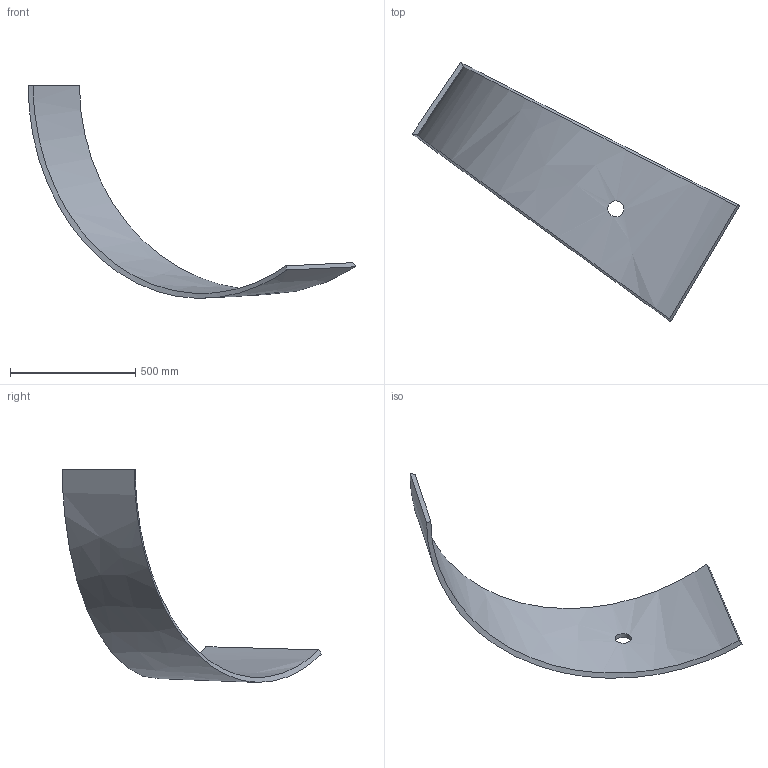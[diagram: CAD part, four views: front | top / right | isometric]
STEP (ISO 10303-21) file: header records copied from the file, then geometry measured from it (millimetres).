
FILE_DESCRIPTION (( 'STEP AP214' ), '1' );
FILE_NAME ('P7.2Mirror.STEP', '2025-01-09T19:43:28', ( '' ), ( '' ), 'SwSTEP 2.0', 'SolidWorks 2024', '' );
FILE_SCHEMA (( 'AUTOMOTIVE_DESIGN' ));
Length unit declared in the file: inch
Products named in the file (1): P7.2Mirror
Bounding box: 1308.03 x 1034.76 x 849.22 mm (x, y, z)
Volume: 13666973.7 mm3; surface area: 1526630.9 mm2
Topology: 1 solids, 1 shells, 7 faces, 15 edges, 10 vertices
Faces by surface type: bspline 6, cylinder 1
Full cylindrical faces by diameter (mm): 63.5 x1
Entity records: 2207 total; most frequent: CARTESIAN_POINT 2070, ORIENTED_EDGE 28, EDGE_CURVE 14, B_SPLINE_CURVE_WITH_KNOTS 14, VERTEX_POINT 10, EDGE_LOOP 10, FACE_OUTER_BOUND 8, ADVANCED_FACE 7
